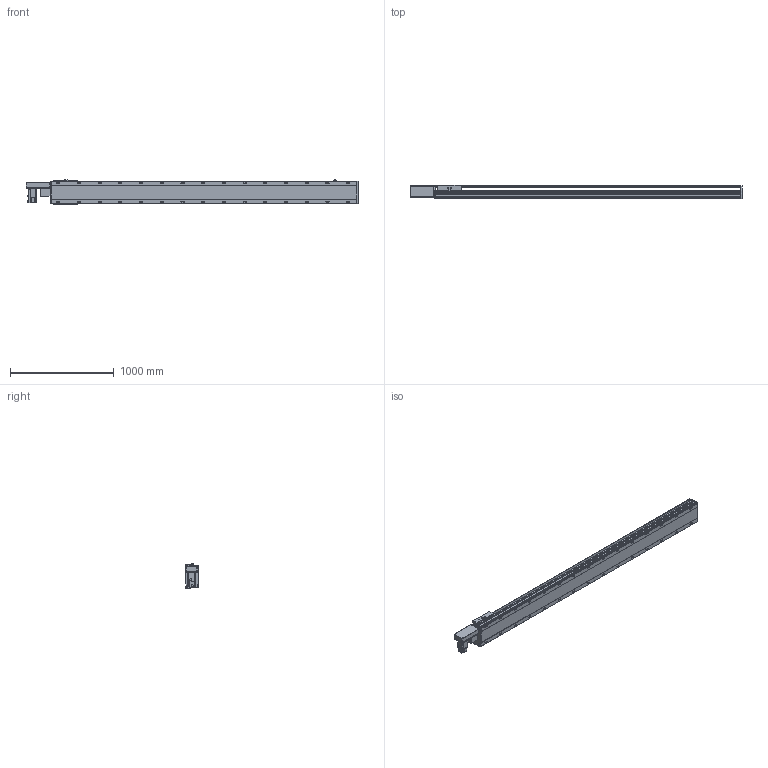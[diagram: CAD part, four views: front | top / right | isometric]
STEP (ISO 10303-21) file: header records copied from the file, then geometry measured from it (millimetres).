
FILE_DESCRIPTION(/* description */ ('STEP AP214'),/* implementation_level */ '2;1');
FILE_NAME(/* name */ 'PBS220-P40-S2600-R-T75-C1-N(0)',/* time_stamp */ '2022-06-11T10:03:07+02:00',/* author */ ('License CC BY-ND 4.0'),/* organization */ ('CADENAS'),/* preprocessor_version */ 'ST-DEVELOPER v18.102',/* originating_system */ 'PARTsolutions',/* authorisation */ ' ');
FILE_SCHEMA (('AUTOMOTIVE_DESIGN {1 0 10303 214 3 1 1}'));
Length unit declared in the file: millimetre
Products named in the file (7): PBS220-P40-S2600-R-T75-C1-N(0); PBS220_sensor; PBS220_plant; PBS220_sliser; T75-p1; PBS220T-R_motors; PBS220-S2600()_body
Assembly tree (8 placements, depth 2):
  PBS220-P40-S2600-R-T75-C1-N(0)
    PBS220_sensor  x3
    PBS220_plant
    PBS220_sliser
    T75-p1
    PBS220T-R_motors
    PBS220-S2600()_body
Bounding box: 3206 x 134 x 238.5 mm (x, y, z)
Volume: 43009330.6 mm3; surface area: 3932712.1 mm2
Topology: 8 solids, 8 shells, 998 faces, 2592 edges, 1684 vertices
Faces by surface type: plane 626, cylinder 318, cone 54
Full cylindrical faces by diameter (mm): 2.013 x4, 4.5 x14, 4.917 x4, 6 x7, 6.647 x8, 8 x10, 8.376 x30, 8.5 x30, 10 x6, 14 x30, 38 x2, 40 x1, 70 x1
Entity records: 27813 total; most frequent: CARTESIAN_POINT 4954, DIRECTION 4833, ORIENTED_EDGE 4358, EDGE_CURVE 2179, AXIS2_PLACEMENT_3D 1737, VERTEX_POINT 1528, LINE 1359, VECTOR 1359
